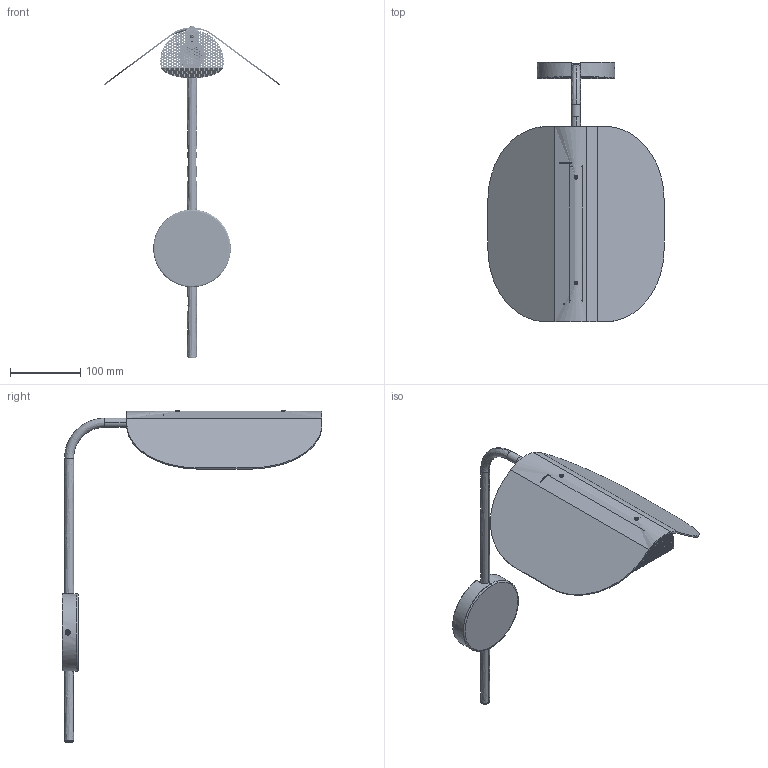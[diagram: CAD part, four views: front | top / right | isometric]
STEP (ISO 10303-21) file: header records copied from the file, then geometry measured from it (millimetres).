
FILE_DESCRIPTION ((), '1');
FILE_NAME ('C:\Users\fcl\Desktop\For at Xbne\Wing Wall US Version.stp', '2026-01-16T13:51:53', ('Unknown'), ('Unknown'), 'HarmonyWare STEP v1.7.11', 'HarmonyWare Translators', '');
FILE_SCHEMA (('CONFIG_CONTROL_DESIGN'));
Length unit declared in the file: millimetre
Products named in the file (24): Wing Wall with cord
Bounding box: 250 x 368.75 x 471.12 mm (x, y, z)
Volume: 246285.7 mm3; surface area: 279210.5 mm2
Topology: 22 solids, 77 shells, 5424 faces, 16125 edges, 10646 vertices
Faces by surface type: bspline 5424
Entity records: 304997 total; most frequent: CARTESIAN_POINT 210375, ORIENTED_EDGE 31902, EDGE_CURVE 16084, VERTEX_POINT 10646, EDGE_LOOP 9728, B_SPLINE_CURVE_WITH_KNOTS 8256, FACE_OUTER_BOUND 5424, ADVANCED_FACE 5424
